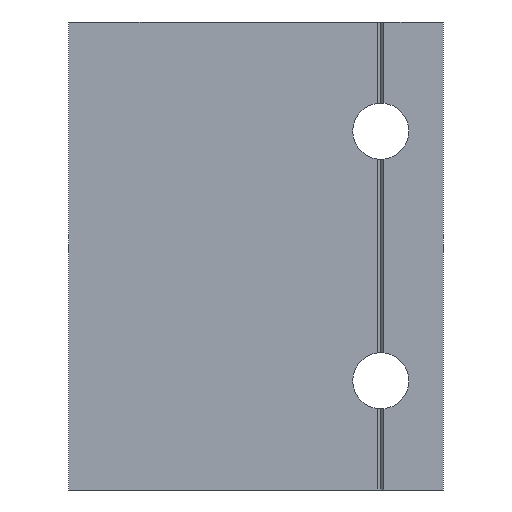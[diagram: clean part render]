
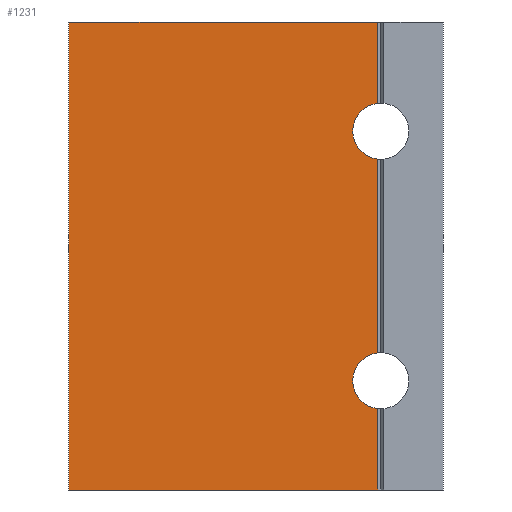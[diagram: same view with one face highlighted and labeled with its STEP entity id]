
A CAD part, front view. The second image highlights one B-rep face of the part: STEP entity #1231.
In plain terms, the highlighted planar face has unit normal (0, -1, 0).
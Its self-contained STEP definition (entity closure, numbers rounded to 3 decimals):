
#52 = AXIS2_PLACEMENT_3D ( 'NONE', #546, #950, #239 ) ;
#56 = CARTESIAN_POINT ( 'NONE',  ( 0., 0., 75. ) ) ;
#58 = CARTESIAN_POINT ( 'NONE',  ( 49.5, 0., 61.972 ) ) ;
#64 = CARTESIAN_POINT ( 'NONE',  ( 49.5, 0., 13.028 ) ) ;
#87 = CARTESIAN_POINT ( 'NONE',  ( 50., 0., 57.5 ) ) ;
#108 = PLANE ( 'NONE',  #52 ) ;
#117 = VECTOR ( 'NONE', #1166, 1000. ) ;
#120 = CARTESIAN_POINT ( 'NONE',  ( 0., 0., 0. ) ) ;
#186 = LINE ( 'NONE', #1184, #117 ) ;
#195 = VECTOR ( 'NONE', #1481, 1000. ) ;
#205 = ORIENTED_EDGE ( 'NONE', *, *, #894, .F. ) ;
#223 = DIRECTION ( 'NONE',  ( 1., 0., 0. ) ) ;
#239 = DIRECTION ( 'NONE',  ( 0., 0., -1. ) ) ;
#290 = ORIENTED_EDGE ( 'NONE', *, *, #1158, .F. ) ;
#320 = ORIENTED_EDGE ( 'NONE', *, *, #1072, .T. ) ;
#331 = CARTESIAN_POINT ( 'NONE',  ( 60., 0., 0. ) ) ;
#369 = CIRCLE ( 'NONE', #554, 4.5 ) ;
#454 = VECTOR ( 'NONE', #223, 1000. ) ;
#455 = ORIENTED_EDGE ( 'NONE', *, *, #1050, .T. ) ;
#481 = EDGE_CURVE ( 'NONE', #1431, #842, #1530, .T. ) ;
#491 = DIRECTION ( 'NONE',  ( 0., 0., 1. ) ) ;
#520 = CARTESIAN_POINT ( 'NONE',  ( 0., 0., 0. ) ) ;
#546 = CARTESIAN_POINT ( 'NONE',  ( 60., 0., 0. ) ) ;
#554 = AXIS2_PLACEMENT_3D ( 'NONE', #87, #1512, #647 ) ;
#575 = LINE ( 'NONE', #1744, #640 ) ;
#590 = VERTEX_POINT ( 'NONE', #56 ) ;
#640 = VECTOR ( 'NONE', #1043, 1000. ) ;
#647 = DIRECTION ( 'NONE',  ( 0., 0., 1. ) ) ;
#694 = VERTEX_POINT ( 'NONE', #64 ) ;
#703 = VERTEX_POINT ( 'NONE', #1518 ) ;
#781 = EDGE_CURVE ( 'NONE', #1234, #1586, #1801, .T. ) ;
#823 = DIRECTION ( 'NONE',  ( 0., 0., 1. ) ) ;
#842 = VERTEX_POINT ( 'NONE', #1700 ) ;
#844 = VECTOR ( 'NONE', #823, 1000. ) ;
#856 = EDGE_LOOP ( 'NONE', ( #1129, #1544, #320, #455, #1273, #1434, #290, #205 ) ) ;
#894 = EDGE_CURVE ( 'NONE', #1234, #590, #953, .T. ) ;
#920 = CARTESIAN_POINT ( 'NONE',  ( 49.5, 0., 0. ) ) ;
#950 = DIRECTION ( 'NONE',  ( 0., -1., 0. ) ) ;
#953 = LINE ( 'NONE', #520, #1479 ) ;
#1043 = DIRECTION ( 'NONE',  ( 0., 0., 1. ) ) ;
#1050 = EDGE_CURVE ( 'NONE', #1820, #703, #575, .T. ) ;
#1072 = EDGE_CURVE ( 'NONE', #694, #1820, #1092, .T. ) ;
#1077 = LINE ( 'NONE', #1360, #454 ) ;
#1092 = CIRCLE ( 'NONE', #1188, 4.5 ) ;
#1129 = ORIENTED_EDGE ( 'NONE', *, *, #781, .T. ) ;
#1140 = CARTESIAN_POINT ( 'NONE',  ( 49.5, 0., 0. ) ) ;
#1158 = EDGE_CURVE ( 'NONE', #590, #842, #1077, .T. ) ;
#1166 = DIRECTION ( 'NONE',  ( 0., 0., 1. ) ) ;
#1184 = CARTESIAN_POINT ( 'NONE',  ( 49.5, 0., 0. ) ) ;
#1188 = AXIS2_PLACEMENT_3D ( 'NONE', #1648, #1369, #491 ) ;
#1231 = ADVANCED_FACE ( 'NONE', ( #1524 ), #108, .T. ) ;
#1234 = VERTEX_POINT ( 'NONE', #120 ) ;
#1273 = ORIENTED_EDGE ( 'NONE', *, *, #1843, .T. ) ;
#1360 = CARTESIAN_POINT ( 'NONE',  ( 29.716, 0., 75. ) ) ;
#1369 = DIRECTION ( 'NONE',  ( 0., 1., 0. ) ) ;
#1431 = VERTEX_POINT ( 'NONE', #58 ) ;
#1434 = ORIENTED_EDGE ( 'NONE', *, *, #481, .T. ) ;
#1479 = VECTOR ( 'NONE', #1527, 1000. ) ;
#1481 = DIRECTION ( 'NONE',  ( 1., 0., 0. ) ) ;
#1512 = DIRECTION ( 'NONE',  ( 0., 1., 0. ) ) ;
#1518 = CARTESIAN_POINT ( 'NONE',  ( 49.5, 0., 53.028 ) ) ;
#1524 = FACE_OUTER_BOUND ( 'NONE', #856, .T. ) ;
#1527 = DIRECTION ( 'NONE',  ( 0., 0., 1. ) ) ;
#1530 = LINE ( 'NONE', #1140, #844 ) ;
#1544 = ORIENTED_EDGE ( 'NONE', *, *, #1653, .T. ) ;
#1586 = VERTEX_POINT ( 'NONE', #920 ) ;
#1648 = CARTESIAN_POINT ( 'NONE',  ( 50., 0., 17.5 ) ) ;
#1653 = EDGE_CURVE ( 'NONE', #1586, #694, #186, .T. ) ;
#1700 = CARTESIAN_POINT ( 'NONE',  ( 49.5, 0., 75. ) ) ;
#1744 = CARTESIAN_POINT ( 'NONE',  ( 49.5, 0., 0. ) ) ;
#1801 = LINE ( 'NONE', #331, #195 ) ;
#1803 = CARTESIAN_POINT ( 'NONE',  ( 49.5, 0., 21.972 ) ) ;
#1820 = VERTEX_POINT ( 'NONE', #1803 ) ;
#1843 = EDGE_CURVE ( 'NONE', #703, #1431, #369, .T. ) ;
